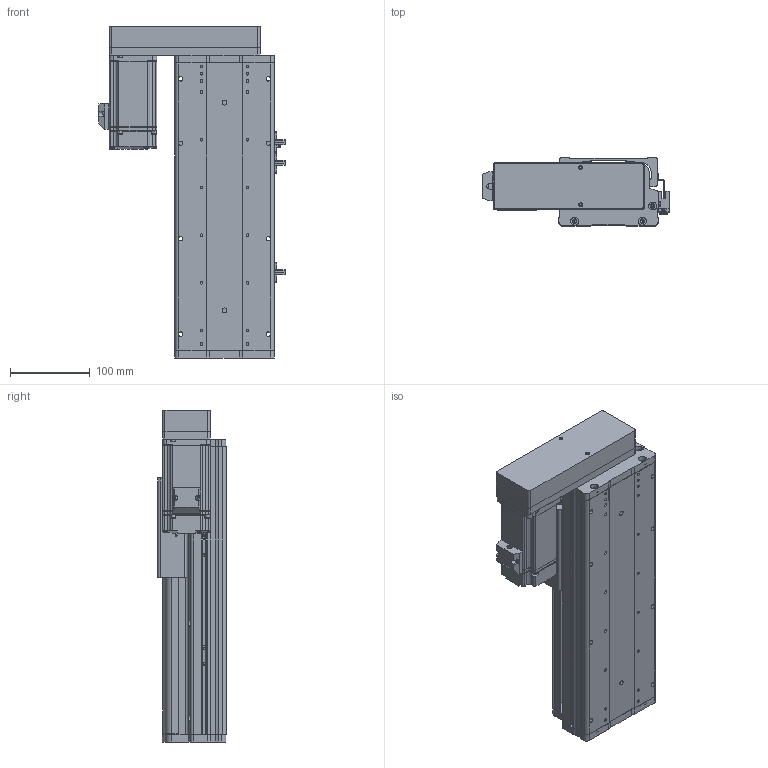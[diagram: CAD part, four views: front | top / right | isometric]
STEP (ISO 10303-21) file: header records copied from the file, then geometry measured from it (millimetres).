
FILE_DESCRIPTION (( 'STEP AP214' ), '1' );
FILE_NAME ('KSD125S-S150-ML-CM.STEP', '2017-10-21T08:26:31', ( '微软用户' ), ( '微软中国' ), 'SwSTEP 2.0', 'SolidWorks 2014', '' );
FILE_SCHEMA (( 'AUTOMOTIVE_DESIGN' ));
Length unit declared in the file: millimetre
Products named in the file (16): 覜茼え68遵圉猾敕; U倰嫖萇EEㄜSX672; MHMD042G1CA_2_03; 125悵誘欶酘衵殏; HTPA30S3M150_A_H6_a萇儂蚚; HTPA30S3M150_A_H6_a佪裝蚚; 125宽马达安装板连板左右折丝杆; KSD125S-150俴最佪裝滅鳥裔; KSD125S-150俴最佪裝菁啣; 拸萇儂釱滅袉菜; 拸萇儂釱滅袉菜-1; U倰嫖萇假蚾璃; ヶ傷啣-125遵耀郪; KSD125-賑雄釱1; 125-帣傷啣1; KSD125S-S150-ML-CM
Assembly tree (19 placements, depth 2):
  KSD125S-S150-ML-CM
    125-帣傷啣1
    KSD125-賑雄釱1
    ヶ傷啣-125遵耀郪
    U倰嫖萇假蚾璃  x3
    拸萇儂釱滅袉菜-1
    拸萇儂釱滅袉菜
    KSD125S-150俴最佪裝菁啣
    KSD125S-150俴最佪裝滅鳥裔
    125宽马达安装板连板左右折丝杆
    HTPA30S3M150_A_H6_a佪裝蚚
    HTPA30S3M150_A_H6_a萇儂蚚
    125悵誘欶酘衵殏
    MHMD042G1CA_2_03
    U倰嫖萇EEㄜSX672  x3
    覜茼え68遵圉猾敕
Bounding box: 234.2 x 86 x 417.5 mm (x, y, z)
Volume: 1707203.6 mm3; surface area: 621812.6 mm2
Topology: 18 solids, 21 shells, 2143 faces, 6207 edges, 4093 vertices
Faces by surface type: cylinder 1326, plane 676, cone 119, bspline 22
Entity records: 75117 total; most frequent: CARTESIAN_POINT 15337, DIRECTION 11745, ORIENTED_EDGE 10922, EDGE_CURVE 5539, AXIS2_PLACEMENT_3D 4527, VERTEX_POINT 3685, VECTOR 2691, LINE 2691
